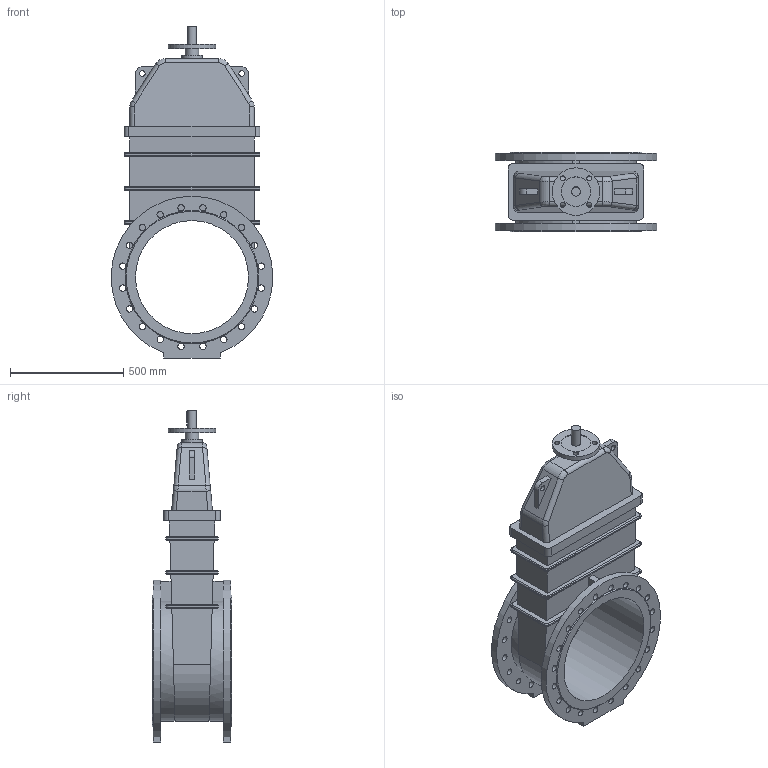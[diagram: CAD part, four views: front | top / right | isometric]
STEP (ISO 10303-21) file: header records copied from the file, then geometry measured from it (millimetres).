
FILE_DESCRIPTION(('STEP AP203'), '1');
FILE_NAME('Çàäâèæêà 47GVA DN500 PN10 áåç èñïîëíèò. ìåõ.', '', ('UNSPECIFIED'), ('UNSPECIFIED'), 'ASCON STEP Converter 1.6', 'ASCON Math Kernel', '');
FILE_SCHEMA(('CONFIG_CONTROL_DESIGN'));
Length unit declared in the file: millimetre
Bounding box: 714.99 x 350 x 1467.5 mm (x, y, z)
Volume: 96049550.4 mm3; surface area: 3447212.1 mm2
Topology: 1 solids, 1 shells, 259 faces, 642 edges, 406 vertices
Faces by surface type: cylinder 127, plane 98, bspline 32, cone 2
Full cylindrical faces by diameter (mm): 22 x4, 25 x2, 28 x40, 40 x1, 60 x1, 90 x1, 130 x1, 210 x1, 500 x1
Entity records: 12553 total; most frequent: CARTESIAN_POINT 4511, ORIENTED_EDGE 1176, DIRECTION 1156, EDGE_CURVE 588, AXIS2_PLACEMENT_3D 434, EDGE_LOOP 428, VERTEX_POINT 406, FACE_BOUND 320
